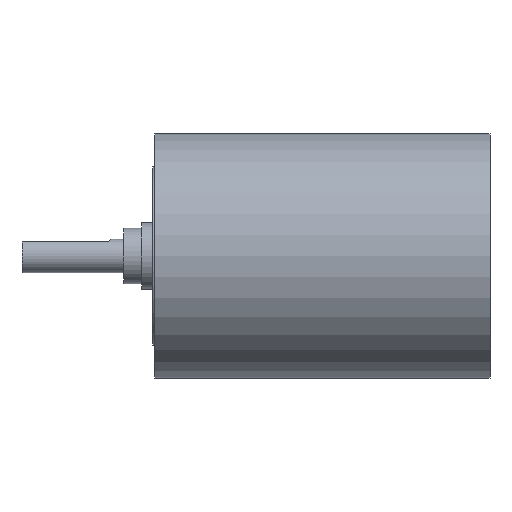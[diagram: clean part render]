
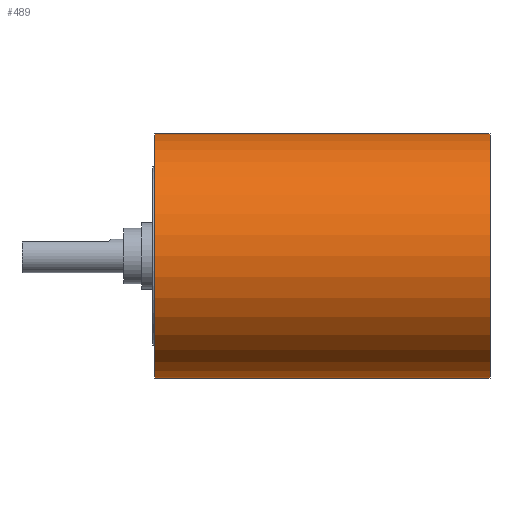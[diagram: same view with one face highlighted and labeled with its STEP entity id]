
A CAD part, top view. The second image highlights one B-rep face of the part: STEP entity #489.
In plain terms, the highlighted cylindrical face has radius 11 mm (diameter 22 mm), a partial arc.
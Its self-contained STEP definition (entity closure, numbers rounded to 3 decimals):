
#82=DIRECTION('',(-1.,0.,0.));
#83=VECTOR('',#82,30.1);
#84=CARTESIAN_POINT('',(5.3,11.,0.));
#85=LINE('',#84,#83);
#86=CARTESIAN_POINT('',(5.3,0.,0.));
#87=DIRECTION('',(1.,0.,0.));
#88=DIRECTION('',(0.,1.,0.));
#89=AXIS2_PLACEMENT_3D('',#86,#87,#88);
#91=DIRECTION('',(-1.,0.,0.));
#92=VECTOR('',#91,30.1);
#93=CARTESIAN_POINT('',(5.3,-11.,0.));
#94=LINE('',#93,#92);
#95=CARTESIAN_POINT('',(-24.8,0.,0.));
#96=DIRECTION('',(1.,0.,0.));
#97=DIRECTION('',(0.,1.,0.));
#98=AXIS2_PLACEMENT_3D('',#95,#96,#97);
#420=CARTESIAN_POINT('',(-24.8,11.,0.));
#421=CARTESIAN_POINT('',(-24.8,-11.,0.));
#422=VERTEX_POINT('',#420);
#423=VERTEX_POINT('',#421);
#440=CARTESIAN_POINT('',(5.3,11.,0.));
#441=CARTESIAN_POINT('',(5.3,-11.,0.));
#442=VERTEX_POINT('',#440);
#443=VERTEX_POINT('',#441);
#477=CARTESIAN_POINT('',(1.838,0.,0.));
#478=DIRECTION('',(-1.,0.,0.));
#479=DIRECTION('',(0.,1.,0.));
#480=AXIS2_PLACEMENT_3D('',#477,#478,#479);
#481=CYLINDRICAL_SURFACE('',#480,11.);
#482=ORIENTED_EDGE('',*,*,#467,.F.);
#483=ORIENTED_EDGE('',*,*,#451,.T.);
#484=ORIENTED_EDGE('',*,*,#471,.T.);
#486=ORIENTED_EDGE('',*,*,#485,.F.);
#487=EDGE_LOOP('',(#482,#483,#484,#486));
#488=FACE_OUTER_BOUND('',#487,.F.);
#489=ADVANCED_FACE('',(#488),#481,.T.);
#90=CIRCLE('',#89,11.);
#99=CIRCLE('',#98,11.);
#451=EDGE_CURVE('',#442,#443,#90,.T.);
#467=EDGE_CURVE('',#442,#422,#85,.T.);
#471=EDGE_CURVE('',#443,#423,#94,.T.);
#485=EDGE_CURVE('',#422,#423,#99,.T.);
